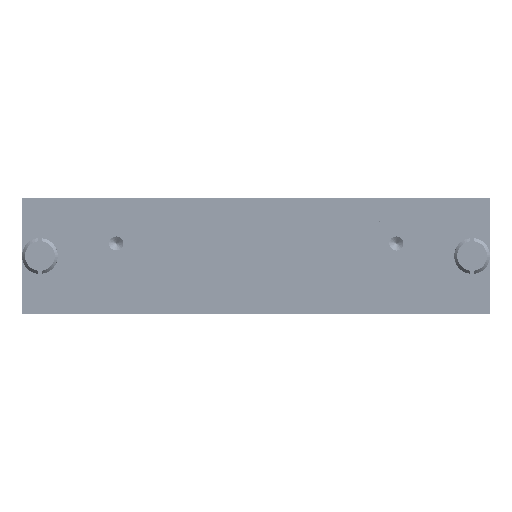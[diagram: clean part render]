
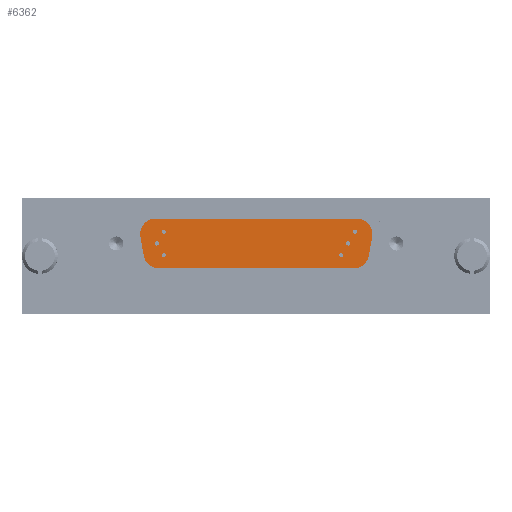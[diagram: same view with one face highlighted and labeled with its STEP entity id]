
A CAD part, left-side view. The second image highlights one B-rep face of the part: STEP entity #6362.
In plain terms, the highlighted planar face has unit normal (-1, 0, 0).
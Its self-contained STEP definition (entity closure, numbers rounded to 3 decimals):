
#6362=ADVANCED_FACE('',(#102326,#102328,#102330,#102332,#102334,#102336,#102338),
#102340,.T.);
#102326=FACE_BOUND('',#102327,.T.);
#102327=EDGE_LOOP('',(#236597,#236598,#236599,#236600,#236601,#236602,#236603,#236604));
#102328=FACE_BOUND('',#102329,.T.);
#102329=EDGE_LOOP('',(#236605));
#102330=FACE_BOUND('',#102331,.T.);
#102331=EDGE_LOOP('',(#236606));
#102332=FACE_BOUND('',#102333,.T.);
#102333=EDGE_LOOP('',(#236607));
#102334=FACE_BOUND('',#102335,.T.);
#102335=EDGE_LOOP('',(#236608));
#102336=FACE_BOUND('',#102337,.T.);
#102337=EDGE_LOOP('',(#236609));
#102338=FACE_BOUND('',#102339,.T.);
#102339=EDGE_LOOP('',(#236610));
#102340=PLANE('',#102341);
#102341=AXIS2_PLACEMENT_3D('',#102342,#102343,#102344);
#102342=CARTESIAN_POINT('',(-11.794,3.,21.07));
#102343=DIRECTION('',(-1.,0.,0.));
#102344=DIRECTION('',(0.,0.,1.));
#236597=ORIENTED_EDGE('',*,*,#332173,.T.);
#236598=ORIENTED_EDGE('',*,*,#332188,.T.);
#236599=ORIENTED_EDGE('',*,*,#332186,.T.);
#236600=ORIENTED_EDGE('',*,*,#332184,.T.);
#236601=ORIENTED_EDGE('',*,*,#332182,.T.);
#236602=ORIENTED_EDGE('',*,*,#332180,.T.);
#236603=ORIENTED_EDGE('',*,*,#332178,.T.);
#236604=ORIENTED_EDGE('',*,*,#332176,.T.);
#236605=ORIENTED_EDGE('',*,*,#332333,.T.);
#236606=ORIENTED_EDGE('',*,*,#332334,.T.);
#236607=ORIENTED_EDGE('',*,*,#332335,.T.);
#236608=ORIENTED_EDGE('',*,*,#332336,.T.);
#236609=ORIENTED_EDGE('',*,*,#332337,.T.);
#236610=ORIENTED_EDGE('',*,*,#332338,.T.);
#332173=EDGE_CURVE('',#389003,#389004,#389005,.T.);
#332176=EDGE_CURVE('',#389008,#389003,#389009,.T.);
#332178=EDGE_CURVE('',#389011,#389008,#389012,.T.);
#332180=EDGE_CURVE('',#389014,#389011,#389015,.T.);
#332182=EDGE_CURVE('',#389017,#389014,#389018,.T.);
#332184=EDGE_CURVE('',#389020,#389017,#389021,.T.);
#332186=EDGE_CURVE('',#389023,#389020,#389024,.T.);
#332188=EDGE_CURVE('',#389004,#389023,#389026,.T.);
#332333=EDGE_CURVE('',#389262,#389262,#389263,.T.);
#332334=EDGE_CURVE('',#389264,#389264,#389265,.T.);
#332335=EDGE_CURVE('',#389266,#389266,#389267,.T.);
#332336=EDGE_CURVE('',#389268,#389268,#389269,.T.);
#332337=EDGE_CURVE('',#389270,#389270,#389271,.T.);
#332338=EDGE_CURVE('',#389272,#389272,#389273,.T.);
#389003=VERTEX_POINT('',#452100);
#389004=VERTEX_POINT('',#452101);
#389005=LINE('',#452102,#452103);
#389008=VERTEX_POINT('',#452111);
#389009=CIRCLE('',#452112,2.6);
#389011=VERTEX_POINT('',#452119);
#389012=LINE('',#452120,#452121);
#389014=VERTEX_POINT('',#452126);
#389015=CIRCLE('',#452127,2.6);
#389017=VERTEX_POINT('',#452134);
#389018=LINE('',#452135,#452136);
#389020=VERTEX_POINT('',#452141);
#389021=CIRCLE('',#452142,2.6);
#389023=VERTEX_POINT('',#452149);
#389024=LINE('',#452150,#452151);
#389026=CIRCLE('',#452156,2.6);
#389262=VERTEX_POINT('',#452729);
#389263=CIRCLE('',#452730,0.35);
#389264=VERTEX_POINT('',#452734);
#389265=CIRCLE('',#452735,0.35);
#389266=VERTEX_POINT('',#452739);
#389267=CIRCLE('',#452740,0.35);
#389268=VERTEX_POINT('',#452744);
#389269=CIRCLE('',#452745,0.35);
#389270=VERTEX_POINT('',#452749);
#389271=CIRCLE('',#452750,0.35);
#389272=VERTEX_POINT('',#452754);
#389273=CIRCLE('',#452755,0.35);
#452100=CARTESIAN_POINT('',(-11.794,46.073,23.19));
#452101=CARTESIAN_POINT('',(-11.794,13.427,23.19));
#452102=CARTESIAN_POINT('',(-11.794,46.073,23.19));
#452103=VECTOR('',#452104,1.);
#452104=DIRECTION('',(0.,-1.,0.));
#452111=CARTESIAN_POINT('',(-11.794,48.633,25.339));
#452112=AXIS2_PLACEMENT_3D('',#452113,#452114,#452115);
#452113=CARTESIAN_POINT('',(-11.794,46.073,25.79));
#452114=DIRECTION('',(-1.,0.,0.));
#452115=DIRECTION('',(0.,0.985,-0.174));
#452119=CARTESIAN_POINT('',(-11.794,49.19,28.499));
#452120=CARTESIAN_POINT('',(-11.794,49.19,28.499));
#452121=VECTOR('',#452122,1.);
#452122=DIRECTION('',(0.,-0.174,-0.985));
#452126=CARTESIAN_POINT('',(-11.794,46.63,31.55));
#452127=AXIS2_PLACEMENT_3D('',#452128,#452129,#452130);
#452128=CARTESIAN_POINT('',(-11.794,46.63,28.95));
#452129=DIRECTION('',(-1.,0.,0.));
#452130=DIRECTION('',(0.,0.,1.));
#452134=CARTESIAN_POINT('',(-11.794,12.87,31.55));
#452135=CARTESIAN_POINT('',(-11.794,12.87,31.55));
#452136=VECTOR('',#452137,1.);
#452137=DIRECTION('',(0.,1.,0.));
#452141=CARTESIAN_POINT('',(-11.794,10.309,28.499));
#452142=AXIS2_PLACEMENT_3D('',#452143,#452144,#452145);
#452143=CARTESIAN_POINT('',(-11.794,12.87,28.95));
#452144=DIRECTION('',(-1.,0.,0.));
#452145=DIRECTION('',(0.,-0.985,-0.174));
#452149=CARTESIAN_POINT('',(-11.794,10.867,25.339));
#452150=CARTESIAN_POINT('',(-11.794,10.867,25.339));
#452151=VECTOR('',#452152,1.);
#452152=DIRECTION('',(0.,-0.174,0.985));
#452156=AXIS2_PLACEMENT_3D('',#452157,#452158,#452159);
#452157=CARTESIAN_POINT('',(-11.794,13.427,25.79));
#452158=DIRECTION('',(-1.,0.,0.));
#452159=DIRECTION('',(0.,0.,-1.));
#452729=CARTESIAN_POINT('',(-11.794,12.86,29.35));
#452730=AXIS2_PLACEMENT_3D('',#452731,#452732,#452733);
#452731=CARTESIAN_POINT('',(-11.794,13.21,29.35));
#452732=DIRECTION('',(1.,0.,0.));
#452733=DIRECTION('',(0.,-1.,0.));
#452734=CARTESIAN_POINT('',(-11.794,46.07,27.37));
#452735=AXIS2_PLACEMENT_3D('',#452736,#452737,#452738);
#452736=CARTESIAN_POINT('',(-11.794,46.42,27.37));
#452737=DIRECTION('',(1.,0.,0.));
#452738=DIRECTION('',(0.,-1.,0.));
#452739=CARTESIAN_POINT('',(-11.794,14.01,27.37));
#452740=AXIS2_PLACEMENT_3D('',#452741,#452742,#452743);
#452741=CARTESIAN_POINT('',(-11.794,14.36,27.37));
#452742=DIRECTION('',(1.,0.,0.));
#452743=DIRECTION('',(0.,-1.,0.));
#452744=CARTESIAN_POINT('',(-11.794,44.92,25.39));
#452745=AXIS2_PLACEMENT_3D('',#452746,#452747,#452748);
#452746=CARTESIAN_POINT('',(-11.794,45.27,25.39));
#452747=DIRECTION('',(1.,0.,0.));
#452748=DIRECTION('',(0.,-1.,0.));
#452749=CARTESIAN_POINT('',(-11.794,15.15,25.39));
#452750=AXIS2_PLACEMENT_3D('',#452751,#452752,#452753);
#452751=CARTESIAN_POINT('',(-11.794,15.5,25.39));
#452752=DIRECTION('',(1.,0.,0.));
#452753=DIRECTION('',(0.,-1.,0.));
#452754=CARTESIAN_POINT('',(-11.794,44.92,29.35));
#452755=AXIS2_PLACEMENT_3D('',#452756,#452757,#452758);
#452756=CARTESIAN_POINT('',(-11.794,45.27,29.35));
#452757=DIRECTION('',(1.,0.,0.));
#452758=DIRECTION('',(0.,-1.,0.));
